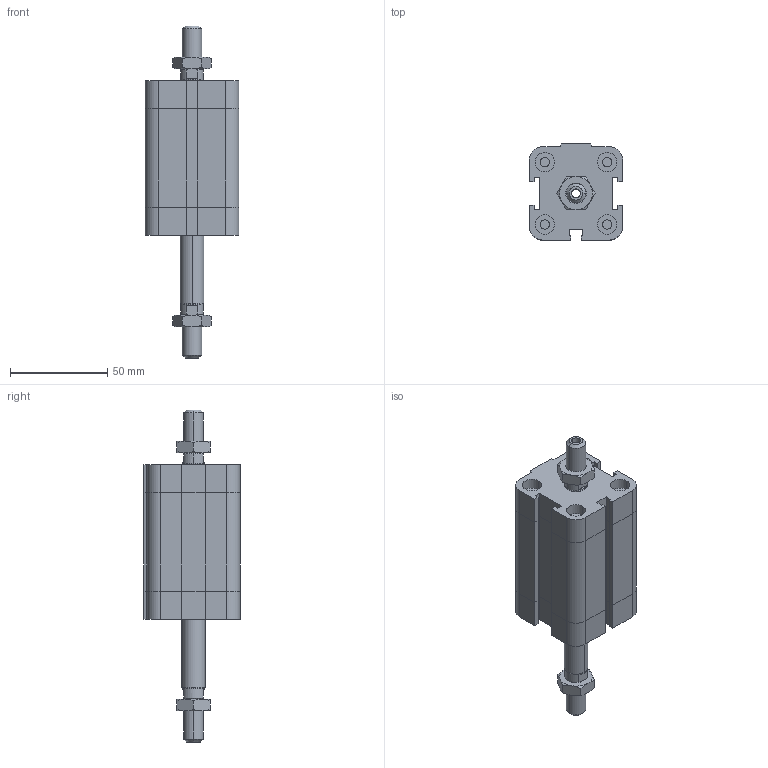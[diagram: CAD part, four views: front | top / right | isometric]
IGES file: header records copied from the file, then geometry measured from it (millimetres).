
Global section: file name: No Iges File Name specified; native system: Autodesk Inventor 2009; preprocessor: AutoDesk Inventor Iges Exporter R2009; author: maffial1; date: 20090420.142706; units: millimetre
Bounding box: 48 x 49.5 x 170.5 mm (x, y, z)
Volume: 168303.8 mm3; surface area: 39346.8 mm2
Topology: 4 solids, 4 shells, 262 faces, 580 edges, 346 vertices
Faces by surface type: plane 129, bspline 53, cone 38, cylinder 22, revolution 20
